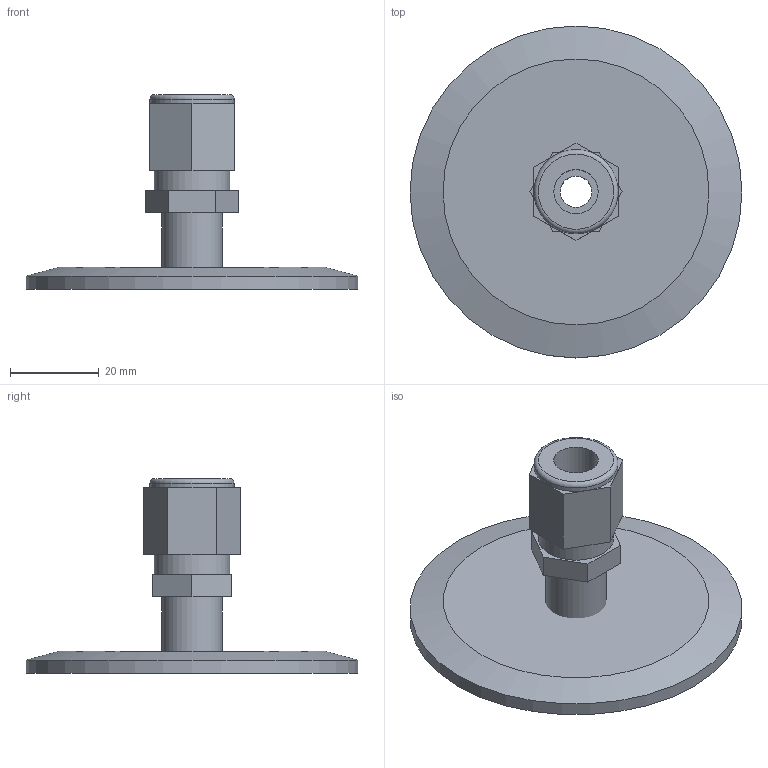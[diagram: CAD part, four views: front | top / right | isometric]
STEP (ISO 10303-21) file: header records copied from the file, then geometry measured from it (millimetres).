
FILE_DESCRIPTION( ( 'Unknown' ), '1' );
FILE_NAME( 'X:/Daten ( aktueller Bestand )/Projekte und Zeichnungen/Solid Edge/STP-Dateien/Adapter KF/1827-10.stp', 'Unknown', ( 'Unknown' ), ( 'Unknown' ), 'PSStep 14.0', 'Unknown', ' ' );
FILE_SCHEMA( ( 'AUTOMOTIVE_DESIGN { 1 0 10303 214 1 1 1 1 }' ) );
Length unit declared in the file: millimetre
Products named in the file (3): Assem1; 10x1-4; 1827- 1-2
Assembly tree (2 placements, depth 2):
  Assem1
    10x1-4
    1827- 1-2
Bounding box: 75 x 75 x 44 mm (x, y, z)
Volume: 26110.2 mm3; surface area: 14292.5 mm2
Topology: 2 solids, 2 shells, 39 faces, 78 edges, 49 vertices
Faces by surface type: plane 28, cylinder 9, torus 1, cone 1
Full cylindrical faces by diameter (mm): 7.1 x1, 10 x1, 12.8 x1, 13.7 x1, 17 x1, 19 x1, 46 x1, 52.4 x1, 75 x1
Entity records: 1324 total; most frequent: DIRECTION 176, CARTESIAN_POINT 158, ORIENTED_EDGE 134, AXIS2_PLACEMENT_3D 67, EDGE_CURVE 67, EDGE_LOOP 60, FACE_OUTER_BOUND 49, VERTEX_POINT 49
